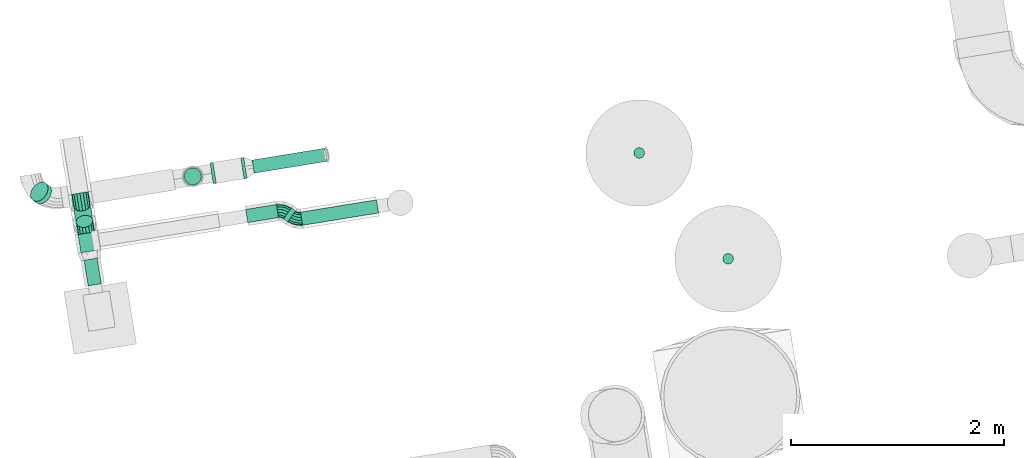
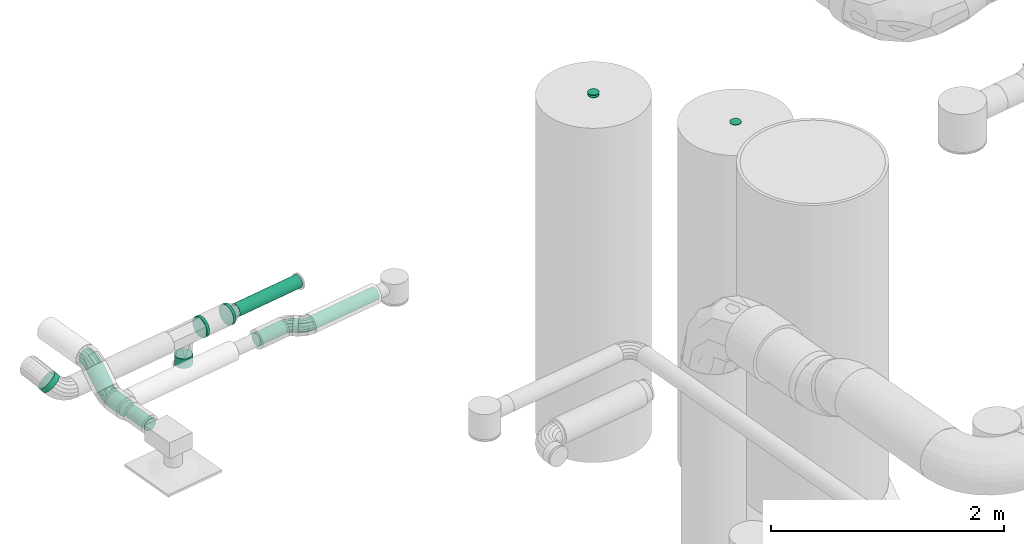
# One storey, part 23 of 39: 11 flow segments, 4 flow fittings, 3 flow terminals.
"""IFC2X3 building model written with IfcOpenShell, lengths in millimetres."""

from ifc_helpers import new_model, entity, si_unit, converted_unit, derived_unit, direction, frame, frame_2d, origin, origin_with_axes, origin_2d_with_axis, place, context, subcontext, project, spatial, circle, extrude, faceted_brep, source, transform, mapped, material, type_object, element, save


model = new_model("IFC2X3")

# Units and contexts
model_context = context("Model", 3, precision=0.01, world=origin(), true_north=direction((6.12323399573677e-17, 1.0)))
plan_context = context("Plan", 3, precision=1e-05, world=origin_with_axes())
body_context = subcontext(model_context, "Body", "Model", "MODEL_VIEW")
ifc_project = project(units=[converted_unit("PLANEANGLEUNIT", "DEGREE", entity("IfcPositiveLengthMeasure", 0.0174532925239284), si_unit("PLANEANGLEUNIT", "RADIAN"), dimensions=[0, 0, 0, 0, 0, 0, 0]), si_unit("AREAUNIT", "SQUARE_METRE"), si_unit("LENGTHUNIT", "METRE", prefix="MILLI"), si_unit("MASSUNIT", "GRAM", prefix="KILO"), si_unit("POWERUNIT", "WATT"), si_unit("PRESSUREUNIT", "PASCAL", prefix="KILO"), si_unit("FORCEUNIT", "NEWTON", prefix="KILO"), si_unit("ELECTRICVOLTAGEUNIT", "VOLT"), si_unit("ELECTRICCURRENTUNIT", "AMPERE"), si_unit("THERMODYNAMICTEMPERATUREUNIT", "DEGREE_CELSIUS"), si_unit("TIMEUNIT", "SECOND"), si_unit("VOLUMEUNIT", "CUBIC_METRE"), derived_unit("LINEARVELOCITYUNIT", [(si_unit("LENGTHUNIT", "METRE"), 1), (si_unit("TIMEUNIT", "SECOND"), -1)]), derived_unit("VOLUMETRICFLOWRATEUNIT", [(si_unit("VOLUMEUNIT", "CUBIC_METRE"), 1), (si_unit("TIMEUNIT", "SECOND"), -1)]), derived_unit("THERMALTRANSMITTANCEUNIT", [(si_unit("POWERUNIT", "WATT"), 1), (si_unit("THERMODYNAMICTEMPERATUREUNIT", "KELVIN"), -1), (si_unit("AREAUNIT", "SQUARE_METRE"), -1)]), derived_unit("SOUNDPRESSUREUNIT", [(si_unit("PRESSUREUNIT", "PASCAL"), 1)])], contexts=[model_context, plan_context])

# Site, building, storey
site_placement = place(None, frame((-0.00071070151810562, 0.00438415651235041, 0.0), z_axis=(0.0, 0.0, 1.0), x_axis=(-0.160236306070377, 0.987078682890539, 0.0)))
site = spatial("IfcSite", under=ifc_project, at=site_placement, Name="Default", CompositionType="ELEMENT")
building_placement = place(site_placement, origin_with_axes())
building = spatial("IfcBuilding", under=site, at=building_placement, CompositionType="ELEMENT")
storey_placement = place(building_placement, frame((0.0, 0.0, 50999.9999999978), z_axis=(0.0, 0.0, 1.0), x_axis=(1.0, 0.0, 0.0)))
storey = spatial("IfcBuildingStorey", under=building, at=storey_placement, Name="Nivå D", CompositionType="ELEMENT", Elevation=50999.9999999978)

# Flow fittings
ifc_material = material(Name="<Unnamed>")
duct_fitting_type_1 = type_object("IfcDuctFittingType", Name="magicirc_elbow_full_radius_1:magicirc_elbow_full_radius_001", PredefinedType="NOTDEFINED", material=ifc_material)
shared_shape_1 = source(origin(), body_context, "Body", "Brep", [
    faceted_brep([(-3.24812439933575, -56.1110923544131, 0.0), (-4.85007084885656, -50.1325468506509, 27.1177336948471), (-51.7766956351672, -56.3105542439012, 27.1177336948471), (-51.7766956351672, -62.4999999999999, 0.0), (-9.33862505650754, -33.3810345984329, 48.8644676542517), (-51.7766956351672, -38.968112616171, 48.8644676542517), (-15.8247738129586, -9.17439804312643, 60.9329945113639), (-51.7766956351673, -13.9075583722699, 60.9329945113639), (-23.0238558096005, 17.6929415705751, 60.932994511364), (-51.7766956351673, 13.9075583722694, 60.932994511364), (-29.5100045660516, 41.8995781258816, 48.864467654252), (-51.7766956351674, 38.9681126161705, 48.864467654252), (-33.9985587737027, 58.6510903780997, 27.1177336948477), (-51.7766956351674, 56.310554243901, 27.1177336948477), (-35.6005052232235, 64.6296358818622, 0.0), (-51.7766956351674, 62.4999999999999, 0.0), (-33.9985587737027, 58.6510903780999, -27.1177336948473), (-51.7766956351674, 56.3105542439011, -27.1177336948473), (-29.5100045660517, 41.8995781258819, -48.8644676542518), (-51.7766956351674, 38.9681126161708, -48.8644676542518), (-23.0238558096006, 17.6929415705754, -60.9329945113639), (-51.7766956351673, 13.9075583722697, -60.9329945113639), (-15.8247738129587, -9.17439804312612, -60.9329945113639), (-51.7766956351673, -13.9075583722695, -60.9329945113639), (-9.33862505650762, -33.3810345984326, -48.8644676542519), (-51.7766956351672, -38.9681126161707, -48.8644676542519), (-4.8500708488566, -50.1325468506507, -27.1177336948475), (-51.7766956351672, -56.3105542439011, -27.1177336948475), (41.973304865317, -37.3797629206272, 0.0), (38.8785819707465, -32.0195456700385, 27.1177336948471), (30.20736111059, -17.0005506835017, 48.8644676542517), (17.6770839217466, 4.70252588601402, 60.9329945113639), (3.76952547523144, 28.7911235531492, 60.932994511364), (-8.76075171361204, 50.4942001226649, 48.864467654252), (-17.4319725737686, 65.513195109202, 27.1177336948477), (-20.5266954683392, 70.8734123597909, 0.0), (-17.4319725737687, 65.5131951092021, -27.1177336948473), (-8.7607517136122, 50.4942001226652, -48.8644676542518), (3.76952547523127, 28.7911235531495, -60.9329945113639), (17.6770839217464, 4.7025258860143, -60.9329945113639), (30.2073611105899, -17.0005506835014, -48.8644676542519), (38.8785819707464, -32.0195456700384, -27.1177336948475), (80.8058264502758, -7.58252085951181, 0.0), (76.4292273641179, -3.20592181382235, 27.1177336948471), (64.1662692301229, 9.05703620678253, 48.8644676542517), (46.4457813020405, 26.7775239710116, 60.9329945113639), (26.7775235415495, 46.445781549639, 60.932994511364), (9.05703561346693, 64.1662693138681, 48.864467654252), (-3.20592252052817, 76.4292273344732, 27.1177336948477), (-7.58252160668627, 80.8058263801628, 0.0), (-3.20592252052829, 76.4292273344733, -27.1177336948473), (9.05703561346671, 64.1662693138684, -48.8644676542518), (26.7775235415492, 46.4457815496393, -60.9329945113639), (46.4457813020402, 26.7775239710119, -60.9329945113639), (64.1662692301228, 9.05703620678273, -48.8644676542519), (76.4292273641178, -3.20592181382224, -27.1177336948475)], [[[0, 1, 2, 3]], [[1, 4, 5, 2]], [[4, 6, 7, 5]], [[6, 8, 9, 7]], [[8, 10, 11, 9]], [[10, 12, 13, 11]], [[12, 14, 15, 13]], [[14, 16, 17, 15]], [[16, 18, 19, 17]], [[18, 20, 21, 19]], [[20, 22, 23, 21]], [[22, 24, 25, 23]], [[24, 26, 27, 25]], [[26, 0, 3, 27]], [[28, 29, 1, 0]], [[29, 30, 4, 1]], [[30, 31, 6, 4]], [[31, 32, 8, 6]], [[32, 33, 10, 8]], [[33, 34, 12, 10]], [[34, 35, 14, 12]], [[35, 36, 16, 14]], [[36, 37, 18, 16]], [[37, 38, 20, 18]], [[38, 39, 22, 20]], [[39, 40, 24, 22]], [[40, 41, 26, 24]], [[41, 28, 0, 26]], [[42, 43, 29, 28]], [[43, 44, 30, 29]], [[44, 45, 31, 30]], [[45, 46, 32, 31]], [[46, 47, 33, 32]], [[47, 48, 34, 33]], [[48, 49, 35, 34]], [[49, 50, 36, 35]], [[50, 51, 37, 36]], [[51, 52, 38, 37]], [[52, 53, 39, 38]], [[53, 54, 40, 39]], [[54, 55, 41, 40]], [[55, 42, 28, 41]], [[3, 2, 5, 7, 9, 11, 13, 15, 17, 19, 21, 23, 25, 27]], [[55, 54, 53, 52, 51, 50, 49, 48, 47, 46, 45, 44, 43, 42]]]),
])
flow_fitting_1_placement = place(storey_placement, frame((779024.265974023, -592267.452756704, 2899.97394225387), z_axis=(9.61589813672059e-05, -9.61589813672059e-05, 0.99999999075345), x_axis=(0.707106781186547, 0.707106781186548, 0.0)))
element("IfcFlowFitting", 1, at=flow_fitting_1_placement, inside=storey, type_object=duct_fitting_type_1, material=ifc_material, Name="magicirc_elbow_full_radius_1:magicirc_elbow_full_radius_001", ObjectType="magicirc_elbow_full_radius_1:magicirc_elbow_full_radius_001", context=body_context, shape_type="MappedRepresentation", body=[
    mapped(shared_shape_1, transform((0.0, 0.0, 0.0), scale=1.0)),
])
duct_fitting_type_2 = type_object("IfcDuctFittingType", Name="magicirc_elbow_full_radius_1:magicirc_elbow_full_radius_001", PredefinedType="NOTDEFINED", material=ifc_material)
flow_fitting_2_placement = place(storey_placement, frame((778916.501758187, -592375.216977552, 2900.0), z_axis=(0.0, 0.0, 1.0), x_axis=(-0.707106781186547, -0.707106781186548, 0.0)))
element("IfcFlowFitting", 2, at=flow_fitting_2_placement, inside=storey, type_object=duct_fitting_type_2, material=ifc_material, Name="magicirc_elbow_full_radius_1:magicirc_elbow_full_radius_001", ObjectType="magicirc_elbow_full_radius_1:magicirc_elbow_full_radius_001", context=body_context, shape_type="MappedRepresentation", body=[
    mapped(shared_shape_1, transform((0.0, 0.0, 0.0), scale=1.0)),
])
duct_fitting_type_3 = type_object("IfcDuctFittingType", Name="magicirc_elbow_full_radius_1:magicirc_elbow_full_radius_001", PredefinedType="NOTDEFINED", material=ifc_material)
shared_shape_2 = source(origin(), body_context, "Body", "Brep", [
    faceted_brep([(-4.15759915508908, -71.8221983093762, 0.0), (-5.73371329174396, -65.9400602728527, 30.6146745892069), (-66.274169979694, -73.910362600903, 30.6146745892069), (-66.274169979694, -80.0, 0.0), (-10.2221066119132, -49.1891483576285, 56.5685424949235), (-66.274169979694, -56.568542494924, 56.5685424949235), (-16.9394619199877, -24.119637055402, 73.9103626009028), (-66.2741699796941, -30.6146745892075, 73.9103626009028), (-24.8631227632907, 5.45186779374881, 80.0), (-66.2741699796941, 0.0, 80.0), (-32.7867836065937, 35.0233726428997, 73.910362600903), (-66.2741699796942, 30.6146745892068, 73.910362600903), (-39.5041389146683, 60.0928839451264, 56.568542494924), (-66.2741699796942, 56.5685424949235, 56.568542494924), (-43.9925322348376, 76.8437958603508, 30.6146745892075), (-66.2741699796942, 73.9103626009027, 30.6146745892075), (-45.5686463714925, 82.7259338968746, 0.0), (-66.2741699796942, 80.0, 0.0), (-43.9925322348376, 76.8437958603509, -30.6146745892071), (-66.2741699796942, 73.9103626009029, -30.6146745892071), (-39.5041389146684, 60.0928839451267, -56.5685424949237), (-66.2741699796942, 56.5685424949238, -56.5685424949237), (-32.7867836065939, 35.0233726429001, -73.9103626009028), (-66.2741699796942, 30.6146745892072, -73.9103626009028), (-24.8631227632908, 5.45186779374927, -80.0), (-66.2741699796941, 0.0, -80.0), (-16.9394619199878, -24.1196370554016, -73.9103626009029), (-66.2741699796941, -30.614674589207, -73.9103626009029), (-10.2221066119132, -49.1891483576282, -56.5685424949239), (-66.274169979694, -56.5685424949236, -56.5685424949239), (-5.73371329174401, -65.9400602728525, -30.6146745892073), (-66.274169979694, -73.9103626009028, -30.6146745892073), (53.7258300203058, -47.846096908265, 0.0), (50.6810113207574, -42.5723162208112, 30.6146745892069), (42.0101012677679, -27.5538594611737, 56.5685424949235), (29.0331673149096, -5.07715052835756, 73.9103626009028), (13.725830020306, 21.4359353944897, 80.0), (-1.58150727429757, 47.949021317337, 73.910362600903), (-14.5584412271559, 70.4257302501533, 56.568542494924), (-23.2293512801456, 85.444187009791, 30.6146745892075), (-26.2741699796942, 90.717967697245, 0.0), (-23.2293512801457, 85.4441870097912, -30.6146745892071), (-14.5584412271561, 70.4257302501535, -56.5685424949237), (-1.58150727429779, 47.9490213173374, -73.9103626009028), (13.7258300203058, 21.4359353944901, -80.0), (29.0331673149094, -5.07715052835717, -73.9103626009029), (42.0101012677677, -27.5538594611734, -56.5685424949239), (50.6810113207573, -42.5723162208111, -30.6146745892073), (103.431457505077, -9.70562748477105, 0.0), (99.1254336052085, -5.3996035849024, 30.6146745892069), (86.8629150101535, 6.86291501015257, 56.5685424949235), (68.5107590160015, 25.2150710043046, 73.9103626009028), (46.8629150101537, 46.8629150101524, 80.0), (25.2150710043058, 68.5107590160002, 73.910362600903), (6.86291501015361, 86.8629150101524, 56.568542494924), (-5.39960358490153, 99.1254336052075, 30.6146745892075), (-9.70562748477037, 103.431457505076, 0.0), (-5.39960358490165, 99.1254336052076, -30.6146745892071), (6.86291501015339, 86.8629150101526, -56.5685424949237), (25.2150710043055, 68.5107590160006, -73.9103626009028), (46.8629150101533, 46.8629150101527, -80.0), (68.5107590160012, 25.2150710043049, -73.9103626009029), (86.8629150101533, 6.86291501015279, -56.5685424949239), (99.1254336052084, -5.39960358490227, -30.6146745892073)], [[[0, 1, 2, 3]], [[1, 4, 5, 2]], [[4, 6, 7, 5]], [[6, 8, 9, 7]], [[8, 10, 11, 9]], [[10, 12, 13, 11]], [[12, 14, 15, 13]], [[14, 16, 17, 15]], [[16, 18, 19, 17]], [[18, 20, 21, 19]], [[20, 22, 23, 21]], [[22, 24, 25, 23]], [[24, 26, 27, 25]], [[26, 28, 29, 27]], [[28, 30, 31, 29]], [[30, 0, 3, 31]], [[32, 33, 1, 0]], [[33, 34, 4, 1]], [[34, 35, 6, 4]], [[35, 36, 8, 6]], [[36, 37, 10, 8]], [[37, 38, 12, 10]], [[38, 39, 14, 12]], [[39, 40, 16, 14]], [[40, 41, 18, 16]], [[41, 42, 20, 18]], [[42, 43, 22, 20]], [[43, 44, 24, 22]], [[44, 45, 26, 24]], [[45, 46, 28, 26]], [[46, 47, 30, 28]], [[47, 32, 0, 30]], [[48, 49, 33, 32]], [[49, 50, 34, 33]], [[50, 51, 35, 34]], [[51, 52, 36, 35]], [[52, 53, 37, 36]], [[53, 54, 38, 37]], [[54, 55, 39, 38]], [[55, 56, 40, 39]], [[56, 57, 41, 40]], [[57, 58, 42, 41]], [[58, 59, 43, 42]], [[59, 60, 44, 43]], [[60, 61, 45, 44]], [[61, 62, 46, 45]], [[62, 63, 47, 46]], [[63, 48, 32, 47]], [[3, 2, 5, 7, 9, 11, 13, 15, 17, 19, 21, 23, 25, 27, 29, 31]], [[63, 62, 61, 60, 59, 58, 57, 56, 55, 54, 53, 52, 51, 50, 49, 48]]]),
])
flow_fitting_3_placement = place(storey_placement, frame((779422.23801528, -590409.98173883, 3150.0), z_axis=(0.0, -1.0, 0.0), x_axis=(-1.0, 0.0, 0.0)))
element("IfcFlowFitting", 3, at=flow_fitting_3_placement, inside=storey, type_object=duct_fitting_type_3, material=ifc_material, Name="magicirc_elbow_full_radius_1:magicirc_elbow_full_radius_001", ObjectType="magicirc_elbow_full_radius_1:magicirc_elbow_full_radius_001", context=body_context, shape_type="MappedRepresentation", body=[
    mapped(shared_shape_2, transform((0.0, 0.0, 0.0), scale=1.0)),
])
duct_fitting_type_4 = type_object("IfcDuctFittingType", Name="magicirc_elbow_full_radius_1:magicirc_elbow_full_radius_001", PredefinedType="NOTDEFINED", material=ifc_material)
flow_fitting_4_placement = place(storey_placement, frame((779172.233843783, -590409.98173883, 2899.99582850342), z_axis=(0.0, -1.0, 0.0), x_axis=(0.999999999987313, 0.0, -5.03727087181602e-06)))
element("IfcFlowFitting", 4, at=flow_fitting_4_placement, inside=storey, type_object=duct_fitting_type_4, material=ifc_material, Name="magicirc_elbow_full_radius_1:magicirc_elbow_full_radius_001", ObjectType="magicirc_elbow_full_radius_1:magicirc_elbow_full_radius_001", context=body_context, shape_type="MappedRepresentation", body=[
    mapped(shared_shape_2, transform((0.0, 0.0, 0.0), scale=1.0)),
])

# Flow terminals
air_terminal_type_1 = type_object("IfcAirTerminalType", Name="TILLUFTSVENTIL - 2 - ST072T:TILLUFTSVENTIL - NETTING-1000 - ST072T", PredefinedType="NOTDEFINED", material=ifc_material)
shared_shape_3 = source(origin(), body_context, "Body", "SweptSolid", [
    extrude(circle(Radius=50.0, at=frame_2d((0.0, -8.07772287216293e-14), x_axis=(1.0, 0.0))), origin(), (0.0, 0.0, 1.0), 5.0),
])
flow_terminal_1_placement = place(storey_placement, frame((779017.739052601, -595655.667976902, 3844.02754287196), z_axis=(0.0, 0.0, 1.0), x_axis=(-1.0, 0.0, 0.0)))
element("IfcFlowTerminal", 5, at=flow_terminal_1_placement, inside=storey, type_object=air_terminal_type_1, material=ifc_material, Name="TILLUFTSVENTIL - 2 - ST072T:TILLUFTSVENTIL - NETTING-1000 - ST072T", ObjectType="TILLUFTSVENTIL - 2 - ST072T:TILLUFTSVENTIL - NETTING-1000 - ST072T", context=body_context, shape_type="MappedRepresentation", body=[
    mapped(shared_shape_3, transform((0.0, 0.0, 0.0), scale=1.0)),
])
air_terminal_type_2 = type_object("IfcAirTerminalType", Name="TILLUFTSVENTIL - 2 - ST072T:TILLUFTSVENTIL - NETTING-1000 - ST072T", PredefinedType="NOTDEFINED", material=ifc_material)
flow_terminal_2_placement = place(storey_placement, frame((779017.739149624, -595655.667976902, 3819.57737415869), z_axis=(0.0, 0.0, 1.0), x_axis=(-1.0, 0.0, 0.0)))
element("IfcFlowTerminal", 6, at=flow_terminal_2_placement, inside=storey, type_object=air_terminal_type_2, material=ifc_material, Name="TILLUFTSVENTIL - 2 - ST072T:TILLUFTSVENTIL - NETTING-1000 - ST072T", ObjectType="TILLUFTSVENTIL - 2 - ST072T:TILLUFTSVENTIL - NETTING-1000 - ST072T", context=body_context, shape_type="MappedRepresentation", body=[
    mapped(shared_shape_3, transform((0.0, 0.0, 0.0), scale=1.0)),
])
air_terminal_type_3 = type_object("IfcAirTerminalType", Name="TILLUFTSVENTIL - 2 - ST072T:TILLUFTSVENTIL - NETTING-1000 - ST072T", PredefinedType="NOTDEFINED", material=ifc_material)
flow_terminal_3_placement = place(storey_placement, frame((777903.00966992, -596321.533015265, 3843.0784800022), z_axis=(0.0, 0.0, 1.0), x_axis=(0.0, -1.0, 0.0)))
element("IfcFlowTerminal", 7, at=flow_terminal_3_placement, inside=storey, type_object=air_terminal_type_3, material=ifc_material, Name="TILLUFTSVENTIL - 2 - ST072T:TILLUFTSVENTIL - NETTING-1000 - ST072T", ObjectType="TILLUFTSVENTIL - 2 - ST072T:TILLUFTSVENTIL - NETTING-1000 - ST072T", context=body_context, shape_type="MappedRepresentation", body=[
    mapped(shared_shape_3, transform((0.0, 0.0, 0.0), scale=1.0)),
])

# Flow segments
duct_segment_type = type_object("IfcDuctSegmentType", Name="Round Duct:KK001T - Spiro kanaler, Forsinket stål", PredefinedType="NOTDEFINED")
flow_segment_1_placement = place(storey_placement, origin_with_axes())
element("IfcFlowSegment", 8, at=flow_segment_1_placement, inside=storey, type_object=duct_segment_type, Name="Round Duct:KK001T - Spiro kanaler, Forsinket stål", ObjectType="Round Duct:KK001T - Spiro kanaler, Forsinket stål", context=body_context, shape_type="SweptSolid", body=[
    extrude(circle(Radius=80.0, at=origin_2d_with_axis()), frame((779472.619644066, -591481.98173883, 2603.07848), z_axis=(0.0, 0.0, 1.0), x_axis=(-1.0, 0.0, 0.0)), (0.0, 0.0, 1.0), 100.000000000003),
])
flow_segment_2_placement = place(storey_placement, origin_with_axes())
element("IfcFlowSegment", 9, at=flow_segment_2_placement, inside=storey, type_object=duct_segment_type, Name="Round Duct:KK001T - Spiro kanaler, Forsinket stål", ObjectType="Round Duct:KK001T - Spiro kanaler, Forsinket stål", context=body_context, shape_type="SweptSolid", body=[
    extrude(circle(Radius=100.0, at=origin_2d_with_axis()), frame((779472.619644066, -591981.981738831, 2903.07848000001), z_axis=(0.0, 1.0, 0.0), x_axis=(-1.0, 0.0, 0.0)), (0.0, 0.0, 1.0), 27.5000000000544),
])
flow_segment_3_placement = place(storey_placement, origin_with_axes())
element("IfcFlowSegment", 10, at=flow_segment_3_placement, inside=storey, type_object=duct_segment_type, Name="Round Duct:KK001T - Spiro kanaler, Forsinket stål", ObjectType="Round Duct:KK001T - Spiro kanaler, Forsinket stål", context=body_context, shape_type="SweptSolid", body=[
    extrude(circle(Radius=100.0, at=frame_2d((0.0, 8.66293703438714e-12), x_axis=(1.0, 0.0))), frame((779472.619644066, -591689.481738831, 2903.07847999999), z_axis=(0.0, 1.0, 0.0), x_axis=(-1.0, 0.0, 0.0)), (0.0, 0.0, 1.0), 27.4999999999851),
])
flow_segment_4_placement = place(storey_placement, origin_with_axes())
element("IfcFlowSegment", 11, at=flow_segment_4_placement, inside=storey, type_object=duct_segment_type, Name="Round Duct:KK001T - Spiro kanaler, Forsinket stål", ObjectType="Round Duct:KK001T - Spiro kanaler, Forsinket stål", context=body_context, shape_type="SweptSolid", body=[
    extrude(circle(Radius=62.4999999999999, at=frame_2d((0.0, -8.662936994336e-12), x_axis=(1.0, 0.0))), frame((779024.265974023, -592215.676061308, 2899.97892104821), z_axis=(0.0, 0.999999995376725, 9.61589818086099e-05), x_axis=(-1.0, 0.0, 0.0)), (0.0, 0.0, 1.0), 292.924413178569),
])
flow_segment_5_placement = place(storey_placement, origin_with_axes())
element("IfcFlowSegment", 12, at=flow_segment_5_placement, inside=storey, type_object=duct_segment_type, Name="Round Duct:KK001T - Spiro kanaler, Forsinket stål", ObjectType="Round Duct:KK001T - Spiro kanaler, Forsinket stål", context=body_context, shape_type="SweptSolid", body=[
    extrude(circle(Radius=62.4999999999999, at=frame_2d((-9.80099514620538e-11, -5.22827090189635e-14), x_axis=(1.0, 0.0))), frame((778987.654321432, -592304.064409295, 2899.97394225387), z_axis=(-0.70710662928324, -0.707106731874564, 0.000533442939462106), x_axis=(-0.707106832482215, 0.707106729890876, 0.0)), (0.0, 0.0, 1.0), 48.8482351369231),
])
flow_segment_6_placement = place(storey_placement, origin_with_axes())
element("IfcFlowSegment", 13, at=flow_segment_6_placement, inside=storey, type_object=duct_segment_type, Name="Round Duct:KK001T - Spiro kanaler, Forsinket stål", ObjectType="Round Duct:KK001T - Spiro kanaler, Forsinket stål", context=body_context, shape_type="SweptSolid", body=[
    extrude(circle(Radius=62.4999999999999, at=origin_2d_with_axis()), frame((778916.501758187, -593149.952067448, 2900.0), z_axis=(0.0, 1.0, 0.0), x_axis=(1.0, 0.0, 0.0)), (0.0, 0.0, 1.0), 722.958394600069),
])
flow_segment_7_placement = place(storey_placement, origin_with_axes())
element("IfcFlowSegment", 14, at=flow_segment_7_placement, inside=storey, type_object=duct_segment_type, Name="Round Duct:KK001T - Spiro kanaler, Forsinket stål", ObjectType="Round Duct:KK001T - Spiro kanaler, Forsinket stål", context=body_context, shape_type="SweptSolid", body=[
    extrude(circle(Radius=80.0, at=frame_2d((-8.80467688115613e-24, -1.22512430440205e-11), x_axis=(1.0, 0.0))), frame((779219.097092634, -590409.98173883, 2946.85907735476), z_axis=(0.707106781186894, 0.0, 0.707106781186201), x_axis=(0.0, 1.0, 0.0)), (0.0, 0.0, 1.0), 221.010477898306),
])
flow_segment_8_placement = place(storey_placement, origin_with_axes())
element("IfcFlowSegment", 15, at=flow_segment_8_placement, inside=storey, type_object=duct_segment_type, Name="Round Duct:KK001T - Spiro kanaler, Forsinket stål", ObjectType="Round Duct:KK001T - Spiro kanaler, Forsinket stål", context=body_context, shape_type="SweptSolid", body=[
    extrude(circle(Radius=80.0, at=origin_2d_with_axis()), frame((778933.195926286, -590409.98173883, 2899.99703260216), z_axis=(1.0, 0.0, 0.0), x_axis=(0.0, -1.0, 0.0)), (0.0, 0.0, 1.0), 172.763275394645),
])
flow_segment_9_placement = place(storey_placement, origin_with_axes())
element("IfcFlowSegment", 16, at=flow_segment_9_placement, inside=storey, type_object=duct_segment_type, Name="Round Duct:KK001T - Spiro kanaler, Forsinket stål", ObjectType="Round Duct:KK001T - Spiro kanaler, Forsinket stål", context=body_context, shape_type="SweptSolid", body=[
    extrude(circle(Radius=62.4999999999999, at=frame_2d((0.0, -8.66293703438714e-12), x_axis=(1.0, 0.0))), frame((778615.119644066, -590409.98173883, 2900.0), z_axis=(1.0, 0.0, 0.0), x_axis=(0.0, -1.0, 0.0)), (0.0, 0.0, 1.0), 243.076282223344),
])
flow_segment_10_placement = place(storey_placement, origin_with_axes())
element("IfcFlowSegment", 17, at=flow_segment_10_placement, inside=storey, type_object=duct_segment_type, Name="Round Duct:KK001T - Spiro kanaler, Forsinket stål", ObjectType="Round Duct:KK001T - Spiro kanaler, Forsinket stål", context=body_context, shape_type="SweptSolid", body=[
    extrude(circle(Radius=62.4999999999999, at=origin_2d_with_axis()), frame((779472.619644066, -592750.179772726, 2903.10000000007), z_axis=(0.0, 1.0, -3.10445197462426e-05), x_axis=(-1.0, 0.0, 0.0)), (0.0, 0.0, 1.0), 693.198034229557),
])
flow_segment_11_placement = place(storey_placement, origin_with_axes())
element("IfcFlowSegment", 18, at=flow_segment_11_placement, inside=storey, type_object=duct_segment_type, Name="Round Duct:KK001T - Spiro kanaler, Forsinket stål", ObjectType="Round Duct:KK001T - Spiro kanaler, Forsinket stål", context=body_context, shape_type="SweptSolid", body=[
    extrude(circle(Radius=100.0, at=origin_2d_with_axis()), frame((779532.546604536, -590063.748013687, 2983.15334277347), z_axis=(0.518982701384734, 0.499988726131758, 0.693302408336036), x_axis=(0.693805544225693, -0.720162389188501, 0.0)), (0.0, 0.0, 1.0), 55.9893482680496),
])

save(model, "model.ifc")
